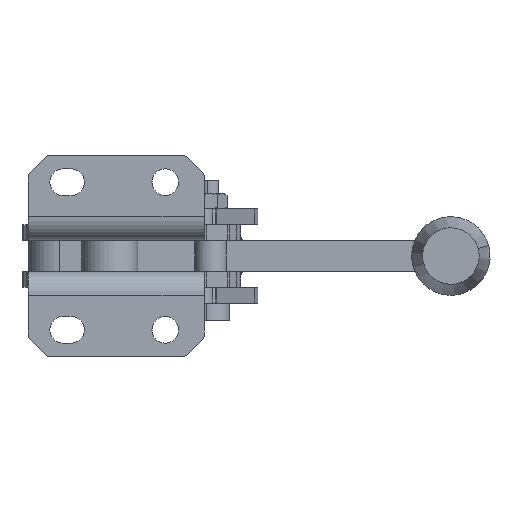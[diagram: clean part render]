
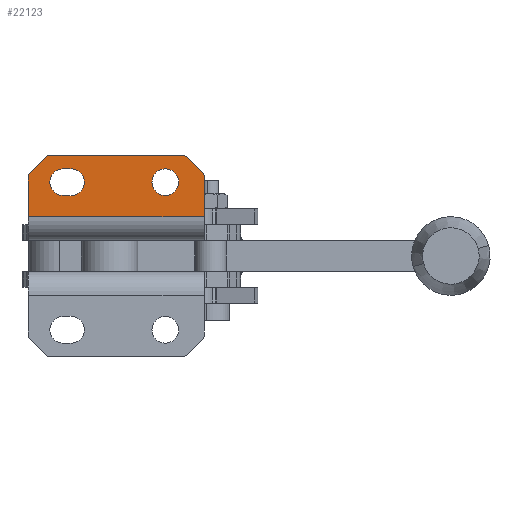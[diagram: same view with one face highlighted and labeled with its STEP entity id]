
A CAD part, front view. The second image highlights one B-rep face of the part: STEP entity #22123.
In plain terms, the highlighted planar face has unit normal (0, -1, 0).
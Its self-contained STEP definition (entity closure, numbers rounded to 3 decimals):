
#79 = AXIS2_PLACEMENT_3D ( 'NONE', #9337, #29161, #3301 ) ;
#140 = VECTOR ( 'NONE', #29495, 1000. ) ;
#172 = EDGE_CURVE ( 'NONE', #15116, #33608, #7930, .T. ) ;
#193 = ORIENTED_EDGE ( 'NONE', *, *, #31104, .F. ) ;
#784 = CARTESIAN_POINT ( 'NONE',  ( 39.172, -57., 22. ) ) ;
#879 = EDGE_CURVE ( 'NONE', #6455, #4482, #12148, .T. ) ;
#902 = CARTESIAN_POINT ( 'NONE',  ( 3.625, -57., 9.25 ) ) ;
#914 = AXIS2_PLACEMENT_3D ( 'NONE', #12564, #29539, #3690 ) ;
#1290 = AXIS2_PLACEMENT_3D ( 'NONE', #32718, #27027, #12694 ) ;
#1333 = VECTOR ( 'NONE', #18048, 1000. ) ;
#1389 = VERTEX_POINT ( 'NONE', #10813 ) ;
#1539 = CARTESIAN_POINT ( 'NONE',  ( 45.414, -57., 16.586 ) ) ;
#2710 = AXIS2_PLACEMENT_3D ( 'NONE', #29758, #21456, #4264 ) ;
#2896 = EDGE_CURVE ( 'NONE', #6455, #7753, #32911, .T. ) ;
#3301 = DIRECTION ( 'NONE',  ( 0., 0., 1. ) ) ;
#3389 = FACE_OUTER_BOUND ( 'NONE', #15521, .T. ) ;
#3690 = DIRECTION ( 'NONE',  ( 0., 0., 1. ) ) ;
#3736 = LINE ( 'NONE', #9777, #19796 ) ;
#3794 = CARTESIAN_POINT ( 'NONE',  ( 40., -57., 22. ) ) ;
#3911 = VECTOR ( 'NONE', #16050, 1000. ) ;
#3978 = CARTESIAN_POINT ( 'NONE',  ( -8., -57., 15.172 ) ) ;
#4264 = DIRECTION ( 'NONE',  ( 0., 0., 1. ) ) ;
#4482 = VERTEX_POINT ( 'NONE', #15422 ) ;
#4988 = DIRECTION ( 'NONE',  ( 1., 0., 0. ) ) ;
#5495 = ORIENTED_EDGE ( 'NONE', *, *, #25512, .F. ) ;
#5667 = FACE_BOUND ( 'NONE', #16603, .T. ) ;
#5687 = EDGE_CURVE ( 'NONE', #1389, #8438, #10557, .T. ) ;
#5709 = CARTESIAN_POINT ( 'NONE',  ( 33.625, -57., 9.25 ) ) ;
#5836 = VERTEX_POINT ( 'NONE', #17576 ) ;
#5939 = EDGE_CURVE ( 'NONE', #21828, #15116, #12664, .T. ) ;
#6268 = DIRECTION ( 'NONE',  ( -0.707, 0., -0.707 ) ) ;
#6432 = DIRECTION ( 'NONE',  ( 0., 0., 1. ) ) ;
#6455 = VERTEX_POINT ( 'NONE', #34871 ) ;
#7016 = VERTEX_POINT ( 'NONE', #14975 ) ;
#7414 = ORIENTED_EDGE ( 'NONE', *, *, #34987, .T. ) ;
#7753 = VERTEX_POINT ( 'NONE', #15772 ) ;
#7764 = ORIENTED_EDGE ( 'NONE', *, *, #5687, .F. ) ;
#7818 = CARTESIAN_POINT ( 'NONE',  ( 3.625, -57., 17.75 ) ) ;
#7930 = CIRCLE ( 'NONE', #15751, 2. ) ;
#8036 = ORIENTED_EDGE ( 'NONE', *, *, #5939, .T. ) ;
#8438 = VERTEX_POINT ( 'NONE', #5709 ) ;
#8525 = DIRECTION ( 'NONE',  ( 0., 0., -1. ) ) ;
#8693 = DIRECTION ( 'NONE',  ( 0., 1., 0. ) ) ;
#9337 = CARTESIAN_POINT ( 'NONE',  ( 44., -57., 15.172 ) ) ;
#9531 = CARTESIAN_POINT ( 'NONE',  ( -3.172, -57., 22. ) ) ;
#9568 = LINE ( 'NONE', #32413, #1333 ) ;
#9777 = CARTESIAN_POINT ( 'NONE',  ( -10., -57., 0. ) ) ;
#9943 = ORIENTED_EDGE ( 'NONE', *, *, #11690, .T. ) ;
#10342 = VECTOR ( 'NONE', #6268, 1000. ) ;
#10557 = CIRCLE ( 'NONE', #914, 4.25 ) ;
#10774 = DIRECTION ( 'NONE',  ( 0., 0., 1. ) ) ;
#10813 = CARTESIAN_POINT ( 'NONE',  ( 33.625, -57., 17.75 ) ) ;
#11354 = EDGE_CURVE ( 'NONE', #22376, #16345, #15319, .T. ) ;
#11690 = EDGE_CURVE ( 'NONE', #5836, #29028, #16652, .T. ) ;
#12114 = CARTESIAN_POINT ( 'NONE',  ( -10., -57., 16. ) ) ;
#12148 = LINE ( 'NONE', #20994, #140 ) ;
#12336 = CARTESIAN_POINT ( 'NONE',  ( 46., -57., 0. ) ) ;
#12564 = CARTESIAN_POINT ( 'NONE',  ( 33.625, -57., 13.5 ) ) ;
#12664 = LINE ( 'NONE', #3794, #3911 ) ;
#12694 = DIRECTION ( 'NONE',  ( 0., 0., 1. ) ) ;
#12931 = EDGE_CURVE ( 'NONE', #8438, #1389, #36240, .T. ) ;
#13645 = AXIS2_PLACEMENT_3D ( 'NONE', #3978, #26435, #32124 ) ;
#14106 = ORIENTED_EDGE ( 'NONE', *, *, #2896, .T. ) ;
#14276 = ORIENTED_EDGE ( 'NONE', *, *, #21243, .T. ) ;
#14533 = CIRCLE ( 'NONE', #1290, 2. ) ;
#14748 = VECTOR ( 'NONE', #10774, 1000. ) ;
#14889 = CARTESIAN_POINT ( 'NONE',  ( 0., -57., 0. ) ) ;
#14939 = DIRECTION ( 'NONE',  ( 0., -1., 0. ) ) ;
#14975 = CARTESIAN_POINT ( 'NONE',  ( -4.586, -57., 21.414 ) ) ;
#15052 = CARTESIAN_POINT ( 'NONE',  ( -10., -57., 15.172 ) ) ;
#15110 = VECTOR ( 'NONE', #4988, 1000. ) ;
#15116 = VERTEX_POINT ( 'NONE', #15925 ) ;
#15305 = ORIENTED_EDGE ( 'NONE', *, *, #36443, .T. ) ;
#15319 = CIRCLE ( 'NONE', #2710, 4.25 ) ;
#15422 = CARTESIAN_POINT ( 'NONE',  ( -10., -57., 2.5 ) ) ;
#15521 = EDGE_LOOP ( 'NONE', ( #15305, #9943, #7414, #18021, #14106, #28492, #8036, #20899, #29994, #14276 ) ) ;
#15751 = AXIS2_PLACEMENT_3D ( 'NONE', #17379, #20392, #6432 ) ;
#15772 = CARTESIAN_POINT ( 'NONE',  ( 46., -57., 15.172 ) ) ;
#15925 = CARTESIAN_POINT ( 'NONE',  ( 40.586, -57., 21.414 ) ) ;
#16050 = DIRECTION ( 'NONE',  ( -0.707, 0., 0.707 ) ) ;
#16177 = LINE ( 'NONE', #30353, #36088 ) ;
#16345 = VERTEX_POINT ( 'NONE', #7818 ) ;
#16603 = EDGE_LOOP ( 'NONE', ( #7764, #27747 ) ) ;
#16652 = CIRCLE ( 'NONE', #13645, 2. ) ;
#16686 = ORIENTED_EDGE ( 'NONE', *, *, #11354, .F. ) ;
#17182 = PLANE ( 'NONE',  #35671 ) ;
#17351 = DIRECTION ( 'NONE',  ( 0., 0., 1. ) ) ;
#17379 = CARTESIAN_POINT ( 'NONE',  ( 39.172, -57., 20. ) ) ;
#17482 = CARTESIAN_POINT ( 'NONE',  ( 1.125, -57., 9.25 ) ) ;
#17576 = CARTESIAN_POINT ( 'NONE',  ( -9.414, -57., 16.586 ) ) ;
#18021 = ORIENTED_EDGE ( 'NONE', *, *, #879, .F. ) ;
#18048 = DIRECTION ( 'NONE',  ( -1., 0., 0. ) ) ;
#19796 = VECTOR ( 'NONE', #8525, 1000. ) ;
#20392 = DIRECTION ( 'NONE',  ( 0., -1., 0. ) ) ;
#20762 = VERTEX_POINT ( 'NONE', #9531 ) ;
#20899 = ORIENTED_EDGE ( 'NONE', *, *, #172, .T. ) ;
#20994 = CARTESIAN_POINT ( 'NONE',  ( -10., -57., 2.5 ) ) ;
#21243 = EDGE_CURVE ( 'NONE', #20762, #7016, #14533, .T. ) ;
#21456 = DIRECTION ( 'NONE',  ( 0., -1., 0. ) ) ;
#21628 = EDGE_LOOP ( 'NONE', ( #24908, #193, #5495, #16686 ) ) ;
#21828 = VERTEX_POINT ( 'NONE', #1539 ) ;
#22123 = ADVANCED_FACE ( 'NONE', ( #29250, #5667, #3389 ), #17182, .F. ) ;
#22376 = VERTEX_POINT ( 'NONE', #902 ) ;
#23957 = EDGE_CURVE ( 'NONE', #36755, #22376, #25182, .T. ) ;
#24034 = VERTEX_POINT ( 'NONE', #28023 ) ;
#24545 = DIRECTION ( 'NONE',  ( 0., 0., 1. ) ) ;
#24589 = EDGE_CURVE ( 'NONE', #33608, #20762, #9568, .T. ) ;
#24908 = ORIENTED_EDGE ( 'NONE', *, *, #23957, .F. ) ;
#25182 = LINE ( 'NONE', #30083, #15110 ) ;
#25512 = EDGE_CURVE ( 'NONE', #16345, #24034, #16177, .T. ) ;
#25894 = DIRECTION ( 'NONE',  ( 0., 0., 1. ) ) ;
#25961 = CIRCLE ( 'NONE', #79, 2. ) ;
#26435 = DIRECTION ( 'NONE',  ( 0., -1., 0. ) ) ;
#27027 = DIRECTION ( 'NONE',  ( 0., -1., 0. ) ) ;
#27213 = AXIS2_PLACEMENT_3D ( 'NONE', #27744, #27395, #24545 ) ;
#27395 = DIRECTION ( 'NONE',  ( 0., -1., 0. ) ) ;
#27697 = DIRECTION ( 'NONE',  ( -1., 0., 0. ) ) ;
#27744 = CARTESIAN_POINT ( 'NONE',  ( 33.625, -57., 13.5 ) ) ;
#27747 = ORIENTED_EDGE ( 'NONE', *, *, #12931, .F. ) ;
#28023 = CARTESIAN_POINT ( 'NONE',  ( 1.125, -57., 17.75 ) ) ;
#28492 = ORIENTED_EDGE ( 'NONE', *, *, #30788, .T. ) ;
#29028 = VERTEX_POINT ( 'NONE', #15052 ) ;
#29161 = DIRECTION ( 'NONE',  ( 0., -1., 0. ) ) ;
#29250 = FACE_BOUND ( 'NONE', #21628, .T. ) ;
#29495 = DIRECTION ( 'NONE',  ( -1., 0., 0. ) ) ;
#29539 = DIRECTION ( 'NONE',  ( 0., -1., 0. ) ) ;
#29579 = CIRCLE ( 'NONE', #32608, 4.25 ) ;
#29758 = CARTESIAN_POINT ( 'NONE',  ( 3.625, -57., 13.5 ) ) ;
#29844 = LINE ( 'NONE', #12114, #10342 ) ;
#29994 = ORIENTED_EDGE ( 'NONE', *, *, #24589, .T. ) ;
#30083 = CARTESIAN_POINT ( 'NONE',  ( 1.125, -57., 9.25 ) ) ;
#30353 = CARTESIAN_POINT ( 'NONE',  ( 1.125, -57., 17.75 ) ) ;
#30788 = EDGE_CURVE ( 'NONE', #7753, #21828, #25961, .T. ) ;
#31104 = EDGE_CURVE ( 'NONE', #24034, #36755, #29579, .T. ) ;
#32124 = DIRECTION ( 'NONE',  ( 0., 0., 1. ) ) ;
#32413 = CARTESIAN_POINT ( 'NONE',  ( 0., -57., 22. ) ) ;
#32608 = AXIS2_PLACEMENT_3D ( 'NONE', #35163, #14939, #25894 ) ;
#32718 = CARTESIAN_POINT ( 'NONE',  ( -3.172, -57., 20. ) ) ;
#32911 = LINE ( 'NONE', #12336, #14748 ) ;
#33608 = VERTEX_POINT ( 'NONE', #784 ) ;
#34871 = CARTESIAN_POINT ( 'NONE',  ( 46., -57., 2.5 ) ) ;
#34987 = EDGE_CURVE ( 'NONE', #29028, #4482, #3736, .T. ) ;
#35163 = CARTESIAN_POINT ( 'NONE',  ( 1.125, -57., 13.5 ) ) ;
#35671 = AXIS2_PLACEMENT_3D ( 'NONE', #14889, #8693, #17351 ) ;
#36088 = VECTOR ( 'NONE', #27697, 1000. ) ;
#36240 = CIRCLE ( 'NONE', #27213, 4.25 ) ;
#36443 = EDGE_CURVE ( 'NONE', #7016, #5836, #29844, .T. ) ;
#36755 = VERTEX_POINT ( 'NONE', #17482 ) ;
